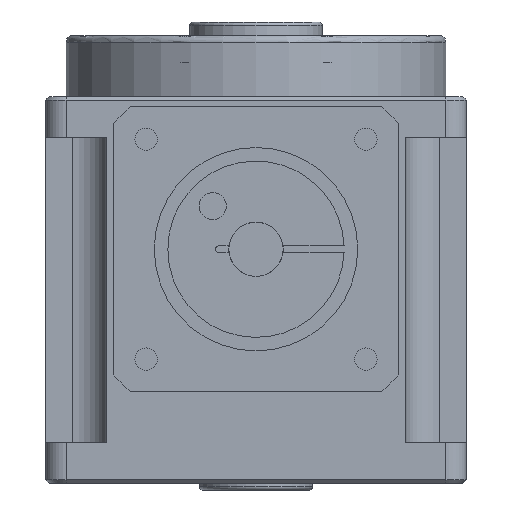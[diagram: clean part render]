
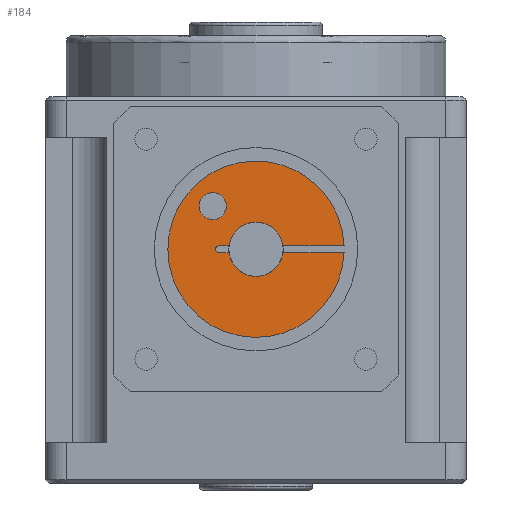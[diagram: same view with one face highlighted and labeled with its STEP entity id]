
A CAD part, front view. The second image highlights one B-rep face of the part: STEP entity #184.
In plain terms, the highlighted planar face has unit normal (0, -1, 0) as drawn and (0, 0, -1) by its records, which use the part's own axes.
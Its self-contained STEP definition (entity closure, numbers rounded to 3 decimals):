
#53 = CARTESIAN_POINT ( 'NONE',  ( 0., 0., -70. ) ) ;
#160 = EDGE_CURVE ( 'NONE', #4437, #8389, #4211, .T. ) ;
#184 = ADVANCED_FACE ( 'NONE', ( #6566, #11148 ), #13413, .T. ) ;
#211 = DIRECTION ( 'NONE',  ( 0., 0., -1. ) ) ;
#563 = EDGE_CURVE ( 'NONE', #960, #9309, #12008, .T. ) ;
#600 = CIRCLE ( 'NONE', #3190, 13. ) ;
#615 = CARTESIAN_POINT ( 'NONE',  ( -4.378, -6.35, -70. ) ) ;
#681 = CARTESIAN_POINT ( 'NONE',  ( 3.969, 0.5, -70. ) ) ;
#960 = VERTEX_POINT ( 'NONE', #11318 ) ;
#1139 = DIRECTION ( 'NONE',  ( 0., 0., -1. ) ) ;
#1391 = DIRECTION ( 'NONE',  ( -1., 0., 0. ) ) ;
#2022 = VERTEX_POINT ( 'NONE', #8815 ) ;
#2079 = VERTEX_POINT ( 'NONE', #8001 ) ;
#2200 = AXIS2_PLACEMENT_3D ( 'NONE', #5058, #11820, #6234 ) ;
#2296 = DIRECTION ( 'NONE',  ( -1., 0., 0. ) ) ;
#2331 = LINE ( 'NONE', #6815, #10503 ) ;
#2472 = DIRECTION ( 'NONE',  ( -1., 0., 0. ) ) ;
#2525 = DIRECTION ( 'NONE',  ( 0., 0., -1. ) ) ;
#2972 = ORIENTED_EDGE ( 'NONE', *, *, #13187, .F. ) ;
#3002 = CARTESIAN_POINT ( 'NONE',  ( -5.5, 0.5, -70. ) ) ;
#3190 = AXIS2_PLACEMENT_3D ( 'NONE', #53, #3672, #4553 ) ;
#3252 = VERTEX_POINT ( 'NONE', #9586 ) ;
#3355 = VERTEX_POINT ( 'NONE', #681 ) ;
#3425 = CARTESIAN_POINT ( 'NONE',  ( -3.969, 0.5, -70. ) ) ;
#3594 = VERTEX_POINT ( 'NONE', #12589 ) ;
#3672 = DIRECTION ( 'NONE',  ( 0., 0., -1. ) ) ;
#3746 = CARTESIAN_POINT ( 'NONE',  ( -5.5, 0., -70. ) ) ;
#3755 = ORIENTED_EDGE ( 'NONE', *, *, #14048, .F. ) ;
#4074 = CIRCLE ( 'NONE', #2200, 4. ) ;
#4128 = EDGE_CURVE ( 'NONE', #11554, #3594, #7408, .T. ) ;
#4211 = LINE ( 'NONE', #8856, #13866 ) ;
#4239 = CIRCLE ( 'NONE', #6120, 4. ) ;
#4247 = AXIS2_PLACEMENT_3D ( 'NONE', #7824, #8996, #6639 ) ;
#4437 = VERTEX_POINT ( 'NONE', #3425 ) ;
#4553 = DIRECTION ( 'NONE',  ( -1., 0., 0. ) ) ;
#4555 = ORIENTED_EDGE ( 'NONE', *, *, #12145, .T. ) ;
#4696 = CARTESIAN_POINT ( 'NONE',  ( -6.378, -6.35, -70. ) ) ;
#4914 = EDGE_CURVE ( 'NONE', #3252, #2022, #600, .T. ) ;
#4969 = VECTOR ( 'NONE', #2296, 1000. ) ;
#4998 = CIRCLE ( 'NONE', #8290, 0.5 ) ;
#5058 = CARTESIAN_POINT ( 'NONE',  ( 0., 0., -70. ) ) ;
#5829 = CARTESIAN_POINT ( 'NONE',  ( 0., 0.5, -70. ) ) ;
#5865 = DIRECTION ( 'NONE',  ( 0., 0., -1. ) ) ;
#5891 = EDGE_LOOP ( 'NONE', ( #3755, #13590 ) ) ;
#6120 = AXIS2_PLACEMENT_3D ( 'NONE', #6641, #1139, #13271 ) ;
#6234 = DIRECTION ( 'NONE',  ( -1., 0., 0. ) ) ;
#6566 = FACE_BOUND ( 'NONE', #5891, .T. ) ;
#6639 = DIRECTION ( 'NONE',  ( -1., 0., 0. ) ) ;
#6641 = CARTESIAN_POINT ( 'NONE',  ( 0., 0., -70. ) ) ;
#6658 = AXIS2_PLACEMENT_3D ( 'NONE', #4696, #11476, #1391 ) ;
#6798 = ORIENTED_EDGE ( 'NONE', *, *, #4914, .T. ) ;
#6815 = CARTESIAN_POINT ( 'NONE',  ( 0., -0.5, -70. ) ) ;
#7302 = ORIENTED_EDGE ( 'NONE', *, *, #160, .T. ) ;
#7408 = CIRCLE ( 'NONE', #9280, 2. ) ;
#7824 = CARTESIAN_POINT ( 'NONE',  ( 0., 0., -70. ) ) ;
#7929 = CARTESIAN_POINT ( 'NONE',  ( 3.969, -0.5, -70. ) ) ;
#8001 = CARTESIAN_POINT ( 'NONE',  ( -3.969, -0.5, -70. ) ) ;
#8070 = ORIENTED_EDGE ( 'NONE', *, *, #8563, .F. ) ;
#8290 = AXIS2_PLACEMENT_3D ( 'NONE', #11440, #2525, #13628 ) ;
#8389 = VERTEX_POINT ( 'NONE', #3002 ) ;
#8492 = AXIS2_PLACEMENT_3D ( 'NONE', #3746, #211, #12570 ) ;
#8560 = VERTEX_POINT ( 'NONE', #7929 ) ;
#8563 = EDGE_CURVE ( 'NONE', #2079, #960, #2331, .T. ) ;
#8815 = CARTESIAN_POINT ( 'NONE',  ( 12.99, 0.5, -70. ) ) ;
#8856 = CARTESIAN_POINT ( 'NONE',  ( 0., 0.5, -70. ) ) ;
#8996 = DIRECTION ( 'NONE',  ( 0., 0., -1. ) ) ;
#9069 = EDGE_CURVE ( 'NONE', #3252, #8560, #9643, .T. ) ;
#9280 = AXIS2_PLACEMENT_3D ( 'NONE', #12404, #5865, #2472 ) ;
#9309 = VERTEX_POINT ( 'NONE', #13417 ) ;
#9574 = VECTOR ( 'NONE', #14413, 1000. ) ;
#9586 = CARTESIAN_POINT ( 'NONE',  ( 12.99, -0.5, -70. ) ) ;
#9643 = LINE ( 'NONE', #14273, #9574 ) ;
#10503 = VECTOR ( 'NONE', #11313, 1000. ) ;
#10999 = ORIENTED_EDGE ( 'NONE', *, *, #11754, .F. ) ;
#11148 = FACE_OUTER_BOUND ( 'NONE', #12322, .T. ) ;
#11313 = DIRECTION ( 'NONE',  ( -1., 0., 0. ) ) ;
#11318 = CARTESIAN_POINT ( 'NONE',  ( -5.5, -0.5, -70. ) ) ;
#11418 = ORIENTED_EDGE ( 'NONE', *, *, #9069, .F. ) ;
#11440 = CARTESIAN_POINT ( 'NONE',  ( -5.5, 0., -70. ) ) ;
#11476 = DIRECTION ( 'NONE',  ( 0., 0., -1. ) ) ;
#11554 = VERTEX_POINT ( 'NONE', #615 ) ;
#11754 = EDGE_CURVE ( 'NONE', #4437, #3355, #4239, .T. ) ;
#11820 = DIRECTION ( 'NONE',  ( 0., 0., -1. ) ) ;
#12008 = CIRCLE ( 'NONE', #8492, 0.5 ) ;
#12010 = DIRECTION ( 'NONE',  ( -1., 0., 0. ) ) ;
#12145 = EDGE_CURVE ( 'NONE', #2022, #3355, #12366, .T. ) ;
#12322 = EDGE_LOOP ( 'NONE', ( #6798, #4555, #10999, #7302, #2972, #14403, #8070, #13745, #11418 ) ) ;
#12366 = LINE ( 'NONE', #5829, #4969 ) ;
#12404 = CARTESIAN_POINT ( 'NONE',  ( -6.378, -6.35, -70. ) ) ;
#12570 = DIRECTION ( 'NONE',  ( -1., 0., 0. ) ) ;
#12589 = CARTESIAN_POINT ( 'NONE',  ( -8.378, -6.35, -70. ) ) ;
#13001 = CIRCLE ( 'NONE', #6658, 2. ) ;
#13187 = EDGE_CURVE ( 'NONE', #9309, #8389, #4998, .T. ) ;
#13271 = DIRECTION ( 'NONE',  ( -1., 0., 0. ) ) ;
#13413 = PLANE ( 'NONE',  #4247 ) ;
#13417 = CARTESIAN_POINT ( 'NONE',  ( -6., 0., -70. ) ) ;
#13590 = ORIENTED_EDGE ( 'NONE', *, *, #4128, .F. ) ;
#13628 = DIRECTION ( 'NONE',  ( -1., 0., 0. ) ) ;
#13745 = ORIENTED_EDGE ( 'NONE', *, *, #14188, .F. ) ;
#13866 = VECTOR ( 'NONE', #12010, 1000. ) ;
#14048 = EDGE_CURVE ( 'NONE', #3594, #11554, #13001, .T. ) ;
#14188 = EDGE_CURVE ( 'NONE', #8560, #2079, #4074, .T. ) ;
#14273 = CARTESIAN_POINT ( 'NONE',  ( 0., -0.5, -70. ) ) ;
#14403 = ORIENTED_EDGE ( 'NONE', *, *, #563, .F. ) ;
#14413 = DIRECTION ( 'NONE',  ( -1., 0., 0. ) ) ;
